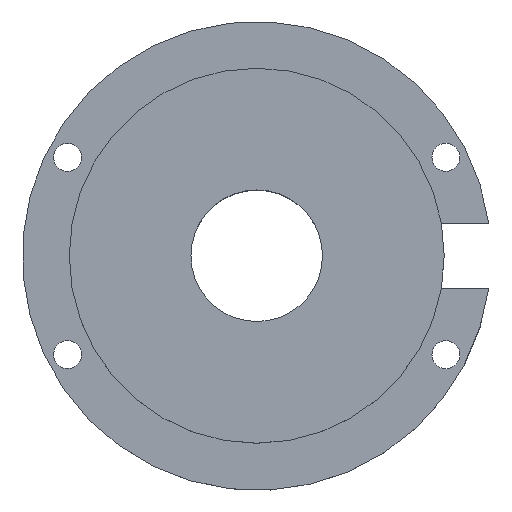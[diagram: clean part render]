
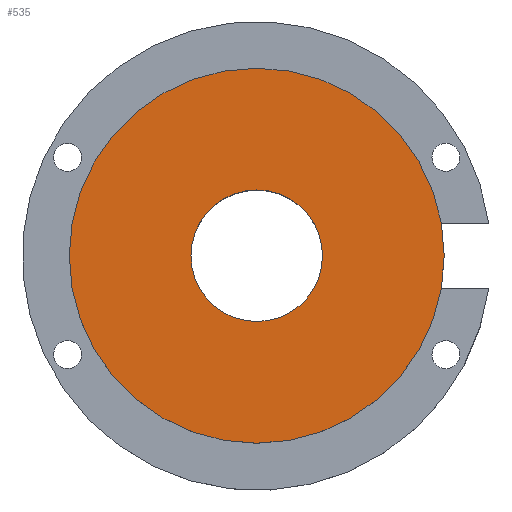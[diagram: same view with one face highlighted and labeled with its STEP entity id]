
A CAD part, top view. The second image highlights one B-rep face of the part: STEP entity #535.
In plain terms, the highlighted planar face has unit normal (0, 0, 1).
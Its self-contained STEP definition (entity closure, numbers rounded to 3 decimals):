
#489 = EDGE_CURVE('',#490,#490,#492,.T.);
#490 = VERTEX_POINT('',#491);
#491 = CARTESIAN_POINT('',(22.8,0.,168.));
#492 = CIRCLE('',#493,22.8);
#493 = AXIS2_PLACEMENT_3D('',#494,#495,#496);
#494 = CARTESIAN_POINT('',(0.,0.,168.));
#495 = DIRECTION('',(0.,0.,1.));
#496 = DIRECTION('',(1.,0.,0.));
#514 = EDGE_CURVE('',#515,#515,#517,.T.);
#515 = VERTEX_POINT('',#516);
#516 = CARTESIAN_POINT('',(8.,0.,168.));
#517 = CIRCLE('',#518,8.);
#518 = AXIS2_PLACEMENT_3D('',#519,#520,#521);
#519 = CARTESIAN_POINT('',(0.,0.,168.));
#520 = DIRECTION('',(0.,0.,1.));
#521 = DIRECTION('',(1.,0.,0.));
#535 = ADVANCED_FACE('',(#536,#539),#542,.T.);
#536 = FACE_BOUND('',#537,.T.);
#537 = EDGE_LOOP('',(#538));
#538 = ORIENTED_EDGE('',*,*,#489,.T.);
#539 = FACE_BOUND('',#540,.T.);
#540 = EDGE_LOOP('',(#541));
#541 = ORIENTED_EDGE('',*,*,#514,.F.);
#542 = PLANE('',#543);
#543 = AXIS2_PLACEMENT_3D('',#544,#545,#546);
#544 = CARTESIAN_POINT('',(0.,0.,168.));
#545 = DIRECTION('',(0.,0.,1.));
#546 = DIRECTION('',(1.,0.,0.));
